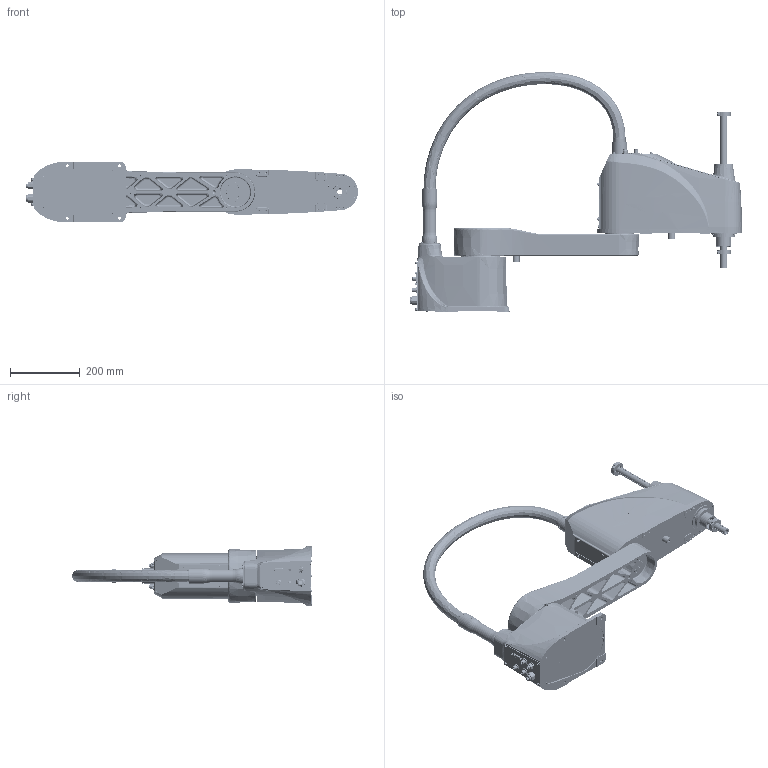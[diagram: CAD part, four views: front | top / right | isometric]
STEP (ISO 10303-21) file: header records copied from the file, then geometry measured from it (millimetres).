
FILE_DESCRIPTION(('STEP AP214'),'1');
FILE_NAME('TR005-HP700 ____ J3____240.stp','2021-08-25T07:24:49',(' '),(' '),'Spatial InterOp 3D',' ',' ');
FILE_SCHEMA(('AUTOMOTIVE_DESIGN { 1 0 10303 214 1 1 1 1 }'));
Length unit declared in the file: millimetre
Products named in the file (6): TR005-HP700 ____ J3____240; ____; TR005-HP700 _____J1; TR005-HP700 _____J2; TR005-HP700 _____J3_J4_R___Z__ ____240; TR005-HP700 ______
Assembly tree (5 placements, depth 2):
  TR005-HP700 ____ J3____240
    ____
    TR005-HP700 _____J1
    TR005-HP700 _____J2
    TR005-HP700 _____J3_J4_R___Z__ ____240
    TR005-HP700 ______
Bounding box: 954.8 x 689.61 x 174 mm (x, y, z)
Volume: 6037843.4 mm3; surface area: 1843760.1 mm2
Topology: 99 solids, 99 shells, 5333 faces, 13142 edges, 8106 vertices
Faces by surface type: plane 1913, cylinder 1664, cone 880, bspline 690, torus 186
Entity records: 250977 total; most frequent: CARTESIAN_POINT 85558, ORIENTED_EDGE 25542, DIRECTION 25174, EDGE_CURVE 12771, AXIS2_PLACEMENT_3D 9815, VERTEX_POINT 8090, EDGE_LOOP 6199, LINE 5544
